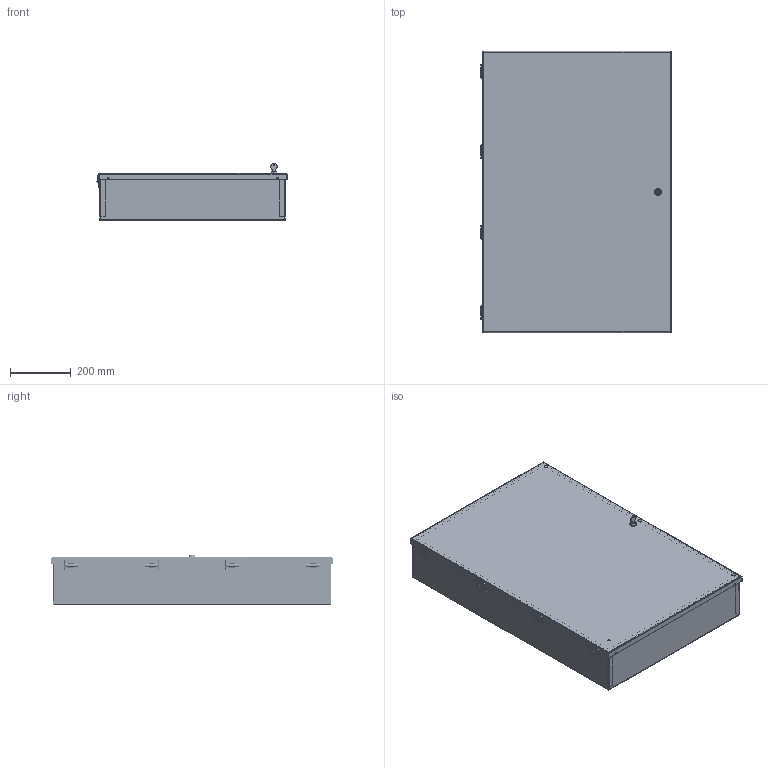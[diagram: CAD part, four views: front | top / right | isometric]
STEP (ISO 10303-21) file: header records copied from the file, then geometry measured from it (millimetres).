
FILE_DESCRIPTION((''),'2;1');
FILE_NAME('MODEL-288_ASM','2025-07-29T10:48:07',('richards'),('SAGINAW CONTROL & ENGINEERING'),'CREO PARAMETRIC BY PTC INC, 2021284','CREO PARAMETRIC BY PTC INC, 2021284','');
FILE_SCHEMA(('AUTOMOTIVE_DESIGN { 1 0 10303 214 1 1 1 1 }'));
Length unit declared in the file: inch
Products named in the file (24): MODEL-288-BDY; MODEL-288-DR; 128691-DOOR-LEAF; 128691-BOX-LEAF; 128691-DOOR-LEAF-STUD; 128691-PIN; 128691-BOX-LEAF-STUD; 128691_ASM; 129266; 100922_INSERT; 100922_SHAFT; 100922_NUT; 100922_CAM; 100922_SCREW; 100922_KEY; 100922_ASM; 105060; 100837; MODEL-288-DOOR-ASSY_ASM; 101661; 114318; MODEL-288-SUBPNL; 102522; MODEL-288_ASM
Assembly tree (50 placements, depth 4):
  MODEL-288_ASM
    MODEL-288-BDY
    MODEL-288-DOOR-ASSY_ASM
      MODEL-288-DR
      128691_ASM  x4
        128691-DOOR-LEAF
        128691-BOX-LEAF
        128691-DOOR-LEAF-STUD
        128691-PIN
        128691-BOX-LEAF-STUD
      129266  x8
      100922_ASM
        100922_INSERT
        100922_SHAFT
        100922_NUT
        100922_CAM
        100922_SCREW
        100922_KEY
      105060  x3
      100837
    100837
    101661  x8
    114318
    MODEL-288-SUBPNL
    102522  x8
Bounding box: 624.64 x 923.92 x 188.86 mm (x, y, z)
Volume: 3347422.1 mm3; surface area: 4390070.6 mm2
Topology: 59 solids, 59 shells, 6706 faces, 17777 edges, 11102 vertices
Faces by surface type: cylinder 2464, plane 2158, bspline 1484, cone 272, torus 244, sphere 84
Entity records: 122494 total; most frequent: CARTESIAN_POINT 50850, ORIENTED_EDGE 10656, DIRECTION 10176, PRESENTATION_STYLE_ASSIGNMENT 5615, STYLED_ITEM 5603, CURVE_STYLE 5328, EDGE_CURVE 5328, AXIS2_PLACEMENT_3D 3910
